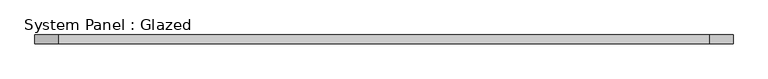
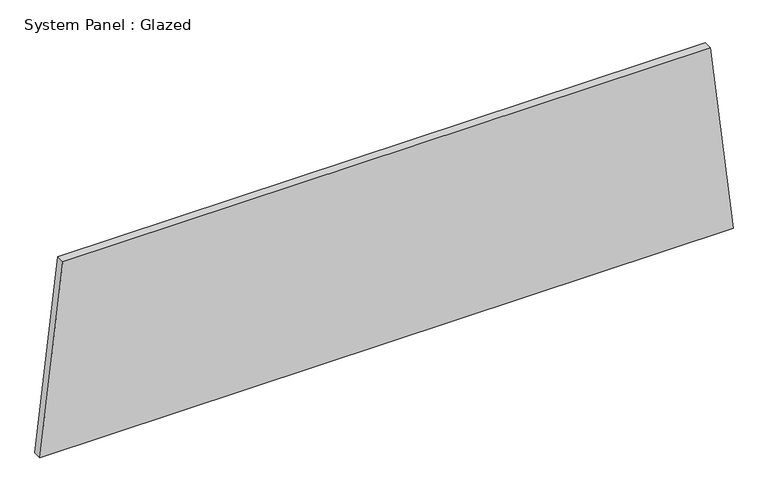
"""IFC4 building model written with IfcOpenShell, lengths in millimetres: plate geometry, System Panel : Glazed."""

from ifc_helpers import new_model, si_unit, frame, origin, place, context, project, spatial, polyline, outline, extrude, source, transform, mapped, element, save


def system_panel_glazed_6d413ca7(model_context):
    return source(origin(), model_context, "Body", "SweptSolid", [
        extrude(outline(polyline([(0.0, -1010.8235916), (0.0, 1010.8235916), (580.1853211, 943.9063452), (580.1853211, -943.9063452), (0.0, -1010.8235916)])), frame((0.0, -44.45, 0.0), z_axis=(0.0, 1.0, 0.0), x_axis=(0.0, 0.0, 1.0)), (0.0, 0.0, 1.0), 25.4),
    ])


if __name__ == "__main__":
    model = new_model("IFC4")
    model_context = context("Model", 3, world=origin())
    ifc_project = project(units=[si_unit("LENGTHUNIT", "METRE", prefix="MILLI")], contexts=[model_context])
    site = spatial("IfcSite", under=ifc_project)
    building = spatial("IfcBuilding", under=site)
    placement = place(None, origin())
    system_panel_glazed_shape = system_panel_glazed_6d413ca7(model_context)
    element("IfcPlate", 1, ObjectType="System Panel : Glazed", at=placement, inside=building, context=model_context, shape_type="MappedRepresentation", body=[
        mapped(system_panel_glazed_shape, transform((0.0, 0.0, 0.0), x_axis=(1.0, 0.0, 0.0), y_axis=(0.0, 1.0, 0.0), z_axis=(0.0, 0.0, 1.0))),
    ])
    save(model, "model.ifc")
